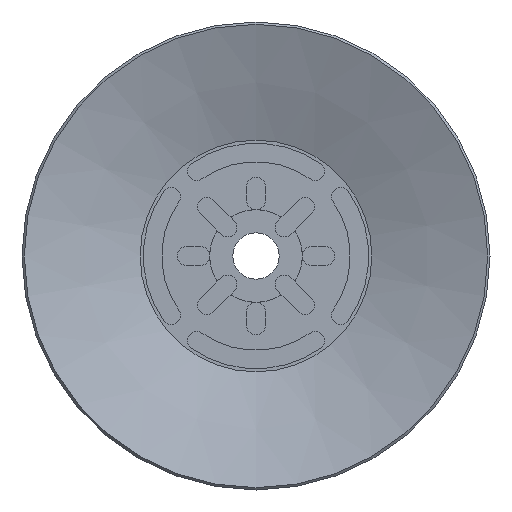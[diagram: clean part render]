
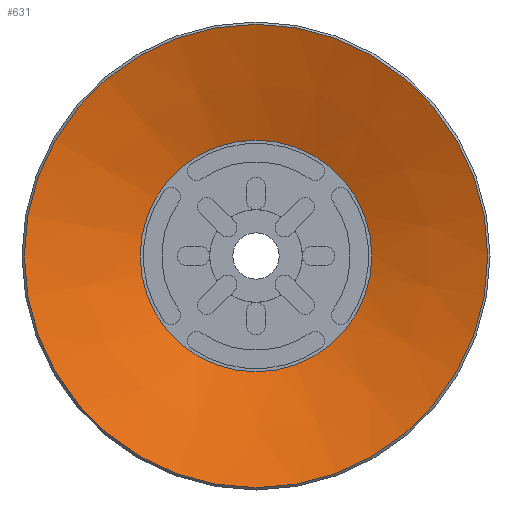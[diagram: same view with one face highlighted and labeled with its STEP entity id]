
A CAD part, front view. The second image highlights one B-rep face of the part: STEP entity #631.
In plain terms, the highlighted conical face has half-angle 70.201 degrees and reference radius 7.5 mm.
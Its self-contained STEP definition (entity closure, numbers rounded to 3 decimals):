
#631=ADVANCED_FACE('',(#1044,#1045),#1046,.F.);
#1044=FACE_BOUND('',#1458,.T.);
#1045=FACE_OUTER_BOUND('',#1459,.T.);
#1046=CONICAL_SURFACE('',#1460,7.5,1.225);
#1458=EDGE_LOOP('',(#2739));
#1459=EDGE_LOOP('',(#2740));
#1460=AXIS2_PLACEMENT_3D('',#2741,#2742,#2743);
#2739=ORIENTED_EDGE('',*,*,#3103,.F.);
#2740=ORIENTED_EDGE('',*,*,#3117,.T.);
#2741=CARTESIAN_POINT('',(0.0,0.0,2.7));
#2742=DIRECTION('',(0.0,0.,-1.0));
#2743=DIRECTION('',(0.0,1.0,0.));
#3103=EDGE_CURVE('',#3728,#3728,#3729,.T.);
#3117=EDGE_CURVE('',#3750,#3750,#3751,.T.);
#3728=VERTEX_POINT('',#4851);
#3729=CIRCLE('',#4852,7.5);
#3750=VERTEX_POINT('',#4878);
#3751=CIRCLE('',#4879,15.0);
#4851=CARTESIAN_POINT('',(0.0,7.5,2.7));
#4852=AXIS2_PLACEMENT_3D('',#5510,#5511,#5512);
#4878=CARTESIAN_POINT('',(0.0,15.0,0.));
#4879=AXIS2_PLACEMENT_3D('',#5542,#5543,#5544);
#5510=CARTESIAN_POINT('',(0.0,0.0,2.7));
#5511=DIRECTION('',(0.0,0.,-1.0));
#5512=DIRECTION('',(0.0,1.0,0.));
#5542=CARTESIAN_POINT('',(0.0,0.0,0.0));
#5543=DIRECTION('',(0.0,0.,-1.0));
#5544=DIRECTION('',(0.0,1.0,0.));
